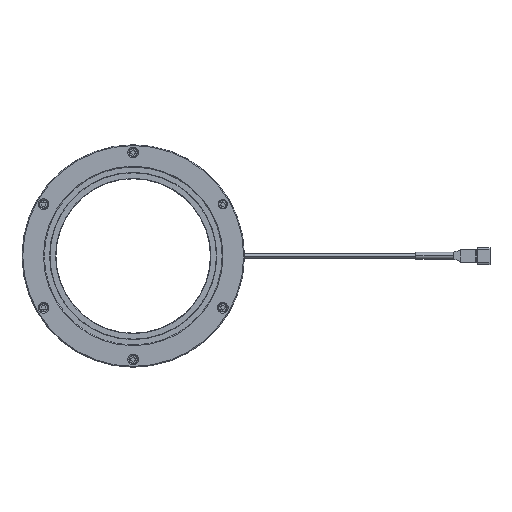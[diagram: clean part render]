
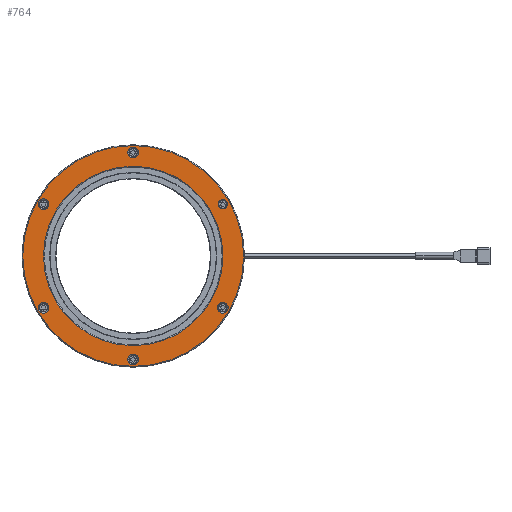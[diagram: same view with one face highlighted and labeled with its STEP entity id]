
A CAD part, top view. The second image highlights one B-rep face of the part: STEP entity #764.
In plain terms, the highlighted planar face has unit normal (0, 0, 1).
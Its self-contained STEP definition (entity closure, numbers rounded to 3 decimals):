
#764=ADVANCED_FACE('NONE',(#1685,#1686,#1687,#1688,#1689,#1690,#1691,#1692),#1693,.F.);
#1685=FACE_OUTER_BOUND('',#3015,.T.);
#1686=FACE_BOUND('',#3016,.T.);
#1687=FACE_BOUND('',#3017,.T.);
#1688=FACE_BOUND('',#3018,.T.);
#1689=FACE_BOUND('',#3019,.T.);
#1690=FACE_BOUND('',#3020,.T.);
#1691=FACE_BOUND('',#3021,.T.);
#1692=FACE_BOUND('',#3022,.T.);
#1693=PLANE('',#3023);
#3015=EDGE_LOOP('',(#4892,#4893));
#3016=EDGE_LOOP('',(#4894,#4895));
#3017=EDGE_LOOP('',(#4896,#4897));
#3018=EDGE_LOOP('',(#4898,#4899));
#3019=EDGE_LOOP('',(#4900,#4901));
#3020=EDGE_LOOP('',(#4902,#4903));
#3021=EDGE_LOOP('',(#4904,#4905));
#3022=EDGE_LOOP('',(#4906,#4907));
#3023=AXIS2_PLACEMENT_3D('',#4908,#4909,#4910);
#4892=ORIENTED_EDGE('',*,*,#7424,.T.);
#4893=ORIENTED_EDGE('',*,*,#7343,.T.);
#4894=ORIENTED_EDGE('',*,*,#7311,.T.);
#4895=ORIENTED_EDGE('',*,*,#7425,.T.);
#4896=ORIENTED_EDGE('',*,*,#7306,.T.);
#4897=ORIENTED_EDGE('',*,*,#7426,.T.);
#4898=ORIENTED_EDGE('',*,*,#7301,.T.);
#4899=ORIENTED_EDGE('',*,*,#7427,.T.);
#4900=ORIENTED_EDGE('',*,*,#7296,.T.);
#4901=ORIENTED_EDGE('',*,*,#7428,.T.);
#4902=ORIENTED_EDGE('',*,*,#7291,.T.);
#4903=ORIENTED_EDGE('',*,*,#7429,.T.);
#4904=ORIENTED_EDGE('',*,*,#7430,.F.);
#4905=ORIENTED_EDGE('',*,*,#7327,.F.);
#4906=ORIENTED_EDGE('',*,*,#7340,.T.);
#4907=ORIENTED_EDGE('',*,*,#7431,.T.);
#4908=CARTESIAN_POINT('',(72.0,0.0,30.003));
#4909=DIRECTION('',(0.,0.0,-1.0));
#4910=DIRECTION('',(-1.0,0.0,0.));
#7291=EDGE_CURVE('NONE',#8625,#8623,#8626,.T.);
#7296=EDGE_CURVE('NONE',#8634,#8632,#8635,.T.);
#7301=EDGE_CURVE('NONE',#8643,#8641,#8644,.T.);
#7306=EDGE_CURVE('NONE',#8652,#8650,#8653,.T.);
#7311=EDGE_CURVE('NONE',#8661,#8659,#8662,.T.);
#7327=EDGE_CURVE('NONE',#8683,#8685,#8686,.T.);
#7340=EDGE_CURVE('NONE',#8706,#8704,#8707,.T.);
#7343=EDGE_CURVE('NONE',#8710,#8711,#8712,.T.);
#7424=EDGE_CURVE('NONE',#8711,#8710,#8833,.T.);
#7425=EDGE_CURVE('NONE',#8659,#8661,#8834,.T.);
#7426=EDGE_CURVE('NONE',#8650,#8652,#8835,.T.);
#7427=EDGE_CURVE('NONE',#8641,#8643,#8836,.T.);
#7428=EDGE_CURVE('NONE',#8632,#8634,#8837,.T.);
#7429=EDGE_CURVE('NONE',#8623,#8625,#8838,.T.);
#7430=EDGE_CURVE('NONE',#8685,#8683,#8839,.T.);
#7431=EDGE_CURVE('NONE',#8704,#8706,#8840,.T.);
#8623=VERTEX_POINT('NONE',#10554);
#8625=VERTEX_POINT('NONE',#10557);
#8626=CIRCLE('',#10558,3.5);
#8632=VERTEX_POINT('NONE',#10565);
#8634=VERTEX_POINT('NONE',#10568);
#8635=CIRCLE('',#10569,3.5);
#8641=VERTEX_POINT('NONE',#10576);
#8643=VERTEX_POINT('NONE',#10579);
#8644=CIRCLE('',#10580,3.5);
#8650=VERTEX_POINT('NONE',#10587);
#8652=VERTEX_POINT('NONE',#10590);
#8653=CIRCLE('',#10591,3.5);
#8659=VERTEX_POINT('NONE',#10598);
#8661=VERTEX_POINT('NONE',#10601);
#8662=CIRCLE('',#10602,3.5);
#8683=VERTEX_POINT('NONE',#10630);
#8685=VERTEX_POINT('NONE',#10633);
#8686=CIRCLE('',#10634,3.0);
#8704=VERTEX_POINT('NONE',#10657);
#8706=VERTEX_POINT('NONE',#10660);
#8707=CIRCLE('',#10661,58.1);
#8710=VERTEX_POINT('NONE',#10665);
#8711=VERTEX_POINT('NONE',#10666);
#8712=CIRCLE('',#10667,71.5);
#8833=CIRCLE('',#10812,71.5);
#8834=CIRCLE('',#10813,3.5);
#8835=CIRCLE('',#10814,3.5);
#8836=CIRCLE('',#10815,3.5);
#8837=CIRCLE('',#10816,3.5);
#8838=CIRCLE('',#10817,3.5);
#8839=CIRCLE('',#10818,3.0);
#8840=CIRCLE('',#10819,58.1);
#10554=CARTESIAN_POINT('',(-61.524,33.5,30.003));
#10557=CARTESIAN_POINT('',(-54.524,33.5,30.003));
#10558=AXIS2_PLACEMENT_3D('',#13108,#13109,#13110);
#10565=CARTESIAN_POINT('',(-61.524,-33.5,30.003));
#10568=CARTESIAN_POINT('',(-54.524,-33.5,30.003));
#10569=AXIS2_PLACEMENT_3D('',#13116,#13117,#13118);
#10576=CARTESIAN_POINT('',(-3.5,-67.,30.003));
#10579=CARTESIAN_POINT('',(3.5,-67.,30.003));
#10580=AXIS2_PLACEMENT_3D('',#13124,#13125,#13126);
#10587=CARTESIAN_POINT('',(54.524,-33.5,30.003));
#10590=CARTESIAN_POINT('',(61.524,-33.5,30.003));
#10591=AXIS2_PLACEMENT_3D('',#13132,#13133,#13134);
#10598=CARTESIAN_POINT('',(-3.5,67.,30.003));
#10601=CARTESIAN_POINT('',(3.5,67.,30.003));
#10602=AXIS2_PLACEMENT_3D('',#13140,#13141,#13142);
#10630=CARTESIAN_POINT('',(55.024,33.5,30.003));
#10633=CARTESIAN_POINT('',(61.024,33.5,30.003));
#10634=AXIS2_PLACEMENT_3D('',#13160,#13161,#13162);
#10657=CARTESIAN_POINT('',(-58.1,0.,30.003));
#10660=CARTESIAN_POINT('',(58.1,0.0,30.003));
#10661=AXIS2_PLACEMENT_3D('',#13178,#13179,#13180);
#10665=CARTESIAN_POINT('',(71.5,0.,30.003));
#10666=CARTESIAN_POINT('',(-71.5,0.0,30.003));
#10667=AXIS2_PLACEMENT_3D('',#13182,#13183,#13184);
#10812=AXIS2_PLACEMENT_3D('',#13317,#13318,#13319);
#10813=AXIS2_PLACEMENT_3D('',#13320,#13321,#13322);
#10814=AXIS2_PLACEMENT_3D('',#13323,#13324,#13325);
#10815=AXIS2_PLACEMENT_3D('',#13326,#13327,#13328);
#10816=AXIS2_PLACEMENT_3D('',#13329,#13330,#13331);
#10817=AXIS2_PLACEMENT_3D('',#13332,#13333,#13334);
#10818=AXIS2_PLACEMENT_3D('',#13335,#13336,#13337);
#10819=AXIS2_PLACEMENT_3D('',#13338,#13339,#13340);
#13108=CARTESIAN_POINT('',(-58.024,33.5,30.003));
#13109=DIRECTION('',(0.0,0.0,-1.0));
#13110=DIRECTION('',(-1.0,0.0,0.0));
#13116=CARTESIAN_POINT('',(-58.024,-33.5,30.003));
#13117=DIRECTION('',(0.0,0.0,-1.0));
#13118=DIRECTION('',(-1.0,0.0,0.0));
#13124=CARTESIAN_POINT('',(0.,-67.,30.003));
#13125=DIRECTION('',(0.0,0.0,-1.0));
#13126=DIRECTION('',(-1.0,0.0,0.0));
#13132=CARTESIAN_POINT('',(58.024,-33.5,30.003));
#13133=DIRECTION('',(0.0,0.0,-1.0));
#13134=DIRECTION('',(-1.0,0.0,0.0));
#13140=CARTESIAN_POINT('',(0.,67.,30.003));
#13141=DIRECTION('',(0.0,0.0,-1.0));
#13142=DIRECTION('',(-1.0,0.0,0.0));
#13160=CARTESIAN_POINT('',(58.024,33.5,30.003));
#13161=DIRECTION('',(0.0,0.0,1.0));
#13162=DIRECTION('',(1.0,0.0,0.0));
#13178=CARTESIAN_POINT('',(0.,0.0,30.003));
#13179=DIRECTION('',(0.,0.0,-1.0));
#13180=DIRECTION('',(-1.0,0.0,0.));
#13182=CARTESIAN_POINT('',(0.,0.0,30.003));
#13183=DIRECTION('',(0.,0.0,1.0));
#13184=DIRECTION('',(-1.0,0.0,0.));
#13317=CARTESIAN_POINT('',(0.,0.0,30.003));
#13318=DIRECTION('',(0.,0.0,1.0));
#13319=DIRECTION('',(-1.0,0.0,0.));
#13320=CARTESIAN_POINT('',(0.,67.,30.003));
#13321=DIRECTION('',(0.0,0.0,-1.0));
#13322=DIRECTION('',(-1.0,0.0,0.0));
#13323=CARTESIAN_POINT('',(58.024,-33.5,30.003));
#13324=DIRECTION('',(0.0,0.0,-1.0));
#13325=DIRECTION('',(-1.0,0.0,0.0));
#13326=CARTESIAN_POINT('',(0.,-67.,30.003));
#13327=DIRECTION('',(0.0,0.0,-1.0));
#13328=DIRECTION('',(-1.0,0.0,0.0));
#13329=CARTESIAN_POINT('',(-58.024,-33.5,30.003));
#13330=DIRECTION('',(0.0,0.0,-1.0));
#13331=DIRECTION('',(-1.0,0.0,0.0));
#13332=CARTESIAN_POINT('',(-58.024,33.5,30.003));
#13333=DIRECTION('',(0.0,0.0,-1.0));
#13334=DIRECTION('',(-1.0,0.0,0.0));
#13335=CARTESIAN_POINT('',(58.024,33.5,30.003));
#13336=DIRECTION('',(0.0,0.0,1.0));
#13337=DIRECTION('',(1.0,0.0,0.0));
#13338=CARTESIAN_POINT('',(0.,0.0,30.003));
#13339=DIRECTION('',(0.,0.0,-1.0));
#13340=DIRECTION('',(-1.0,0.0,0.));
